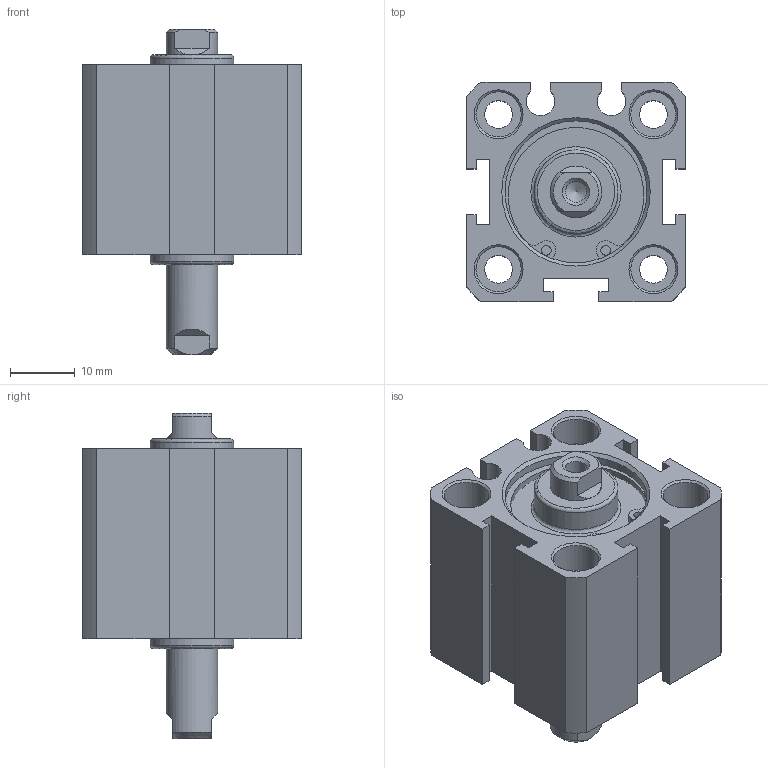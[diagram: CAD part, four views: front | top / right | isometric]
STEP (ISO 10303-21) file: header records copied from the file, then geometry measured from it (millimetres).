
FILE_DESCRIPTION((''),'2;1');
FILE_NAME('I:\3D電子目錄\氣缸\JDD\JDD\JDD20\JDD20x10.stp','2007-02-08T08:40:56',('662F206'),(''),'Autodesk Inventor 10','Autodesk Inventor 10','');
FILE_SCHEMA(('AUTOMOTIVE_DESIGN { 1 0 10303 214 1 1 1 1 }'));
Length unit declared in the file: millimetre
Products named in the file (3): JDD20; R 形環 23
Assembly tree (3 placements, depth 2):
  JDD20
    JDD20
    R 形環 23  x2
Bounding box: 34 x 34 x 50.5 mm (x, y, z)
Volume: 26979.1 mm3; surface area: 11894.9 mm2
Topology: 3 solids, 3 shells, 149 faces, 346 edges, 225 vertices
Faces by surface type: plane 70, cylinder 47, cone 18, bspline 12, torus 2
Full cylindrical faces by diameter (mm): 1.5 x6, 4.3 x4, 7 x8, 8 x1, 13 x2, 22 x4, 23.2 x2
Entity records: 3819 total; most frequent: CARTESIAN_POINT 813, DIRECTION 626, ORIENTED_EDGE 514, EDGE_CURVE 257, AXIS2_PLACEMENT_3D 246, EDGE_LOOP 220, VERTEX_POINT 195, FACE_OUTER_BOUND 137
